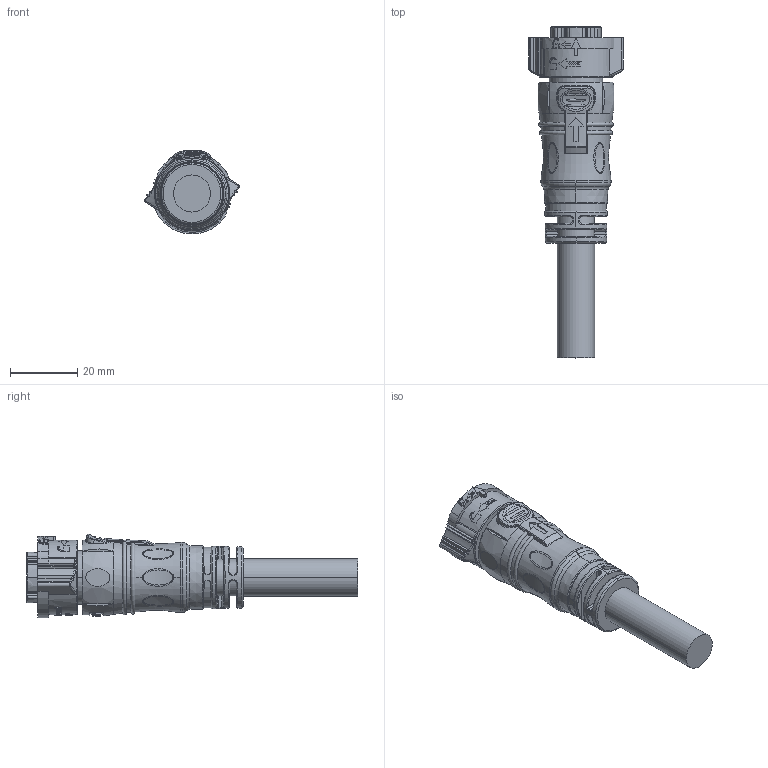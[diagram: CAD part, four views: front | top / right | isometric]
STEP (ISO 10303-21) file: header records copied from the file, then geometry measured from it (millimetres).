
FILE_DESCRIPTION((''),'2;1');
FILE_NAME('CBD-08AFFM-QL8FXX','2021-07-02T',('L210023'),(''),'PRO/ENGINEER BY PARAMETRIC TECHNOLOGY CORPORATION, 2017170','PRO/ENGINEER BY PARAMETRIC TECHNOLOGY CORPORATION, 2017170','');
FILE_SCHEMA(('CONFIG_CONTROL_DESIGN'));
Products named in the file (1): CBD-08AFFM-QL8FXX
Bounding box: 28 x 98.5 x 24.88 mm (x, y, z)
Volume: 22750.1 mm3; surface area: 9544.5 mm2
Topology: 1 solids, 11 shells, 1333 faces, 3458 edges, 2220 vertices
Faces by surface type: plane 530, bspline 250, cylinder 231, extrusion 197, cone 84, torus 34, sphere 7
Entity records: 61279 total; most frequent: CARTESIAN_POINT 24927, ORIENTED_EDGE 6916, DIRECTION 5222, EDGE_CURVE 3458, VERTEX_POINT 2220, AXIS2_PLACEMENT_3D 1788, VECTOR 1646, LINE 1449
